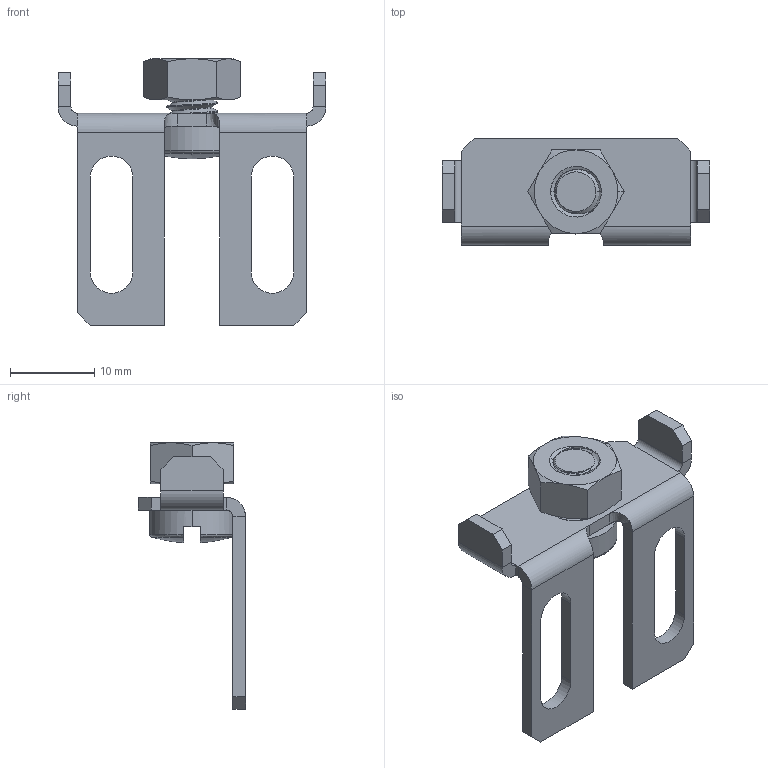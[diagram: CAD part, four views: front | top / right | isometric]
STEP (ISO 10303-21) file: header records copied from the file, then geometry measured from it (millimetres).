
FILE_DESCRIPTION (( 'STEP AP214' ), '1' );
FILE_NAME ('LB112.STEP', '2026-02-26T21:27:46', ( '' ), ( '' ), 'SwSTEP 2.0', 'SolidWorks 2024', '' );
FILE_SCHEMA (( 'AUTOMOTIVE_DESIGN' ));
Length unit declared in the file: inch
Products named in the file (4): CHM6x8_91460A312; LB112; HN-M6_90592A016; 099270
Assembly tree (3 placements, depth 2):
  LB112
    099270
    CHM6x8_91460A312
    HN-M6_90592A016
Bounding box: 31.74 x 12.7 x 31.62 mm (x, y, z)
Volume: 1791.4 mm3; surface area: 2770.2 mm2
Topology: 3 solids, 3 shells, 196 faces, 478 edges, 289 vertices
Faces by surface type: cylinder 81, plane 61, cone 42, bspline 6, sphere 4, torus 2
Entity records: 7344 total; most frequent: CARTESIAN_POINT 2974, ORIENTED_EDGE 956, DIRECTION 813, EDGE_CURVE 478, AXIS2_PLACEMENT_3D 299, VERTEX_POINT 289, VECTOR 215, LINE 215
